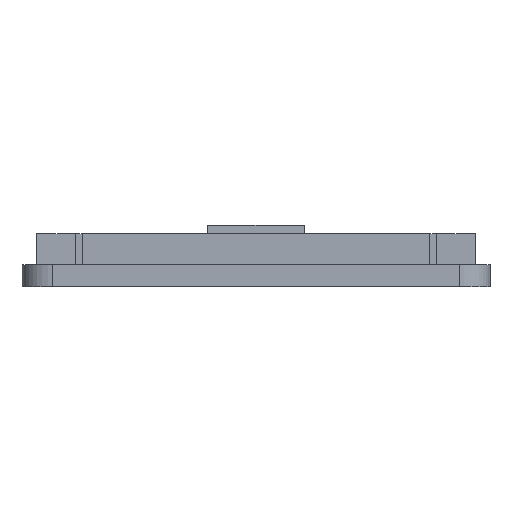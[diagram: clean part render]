
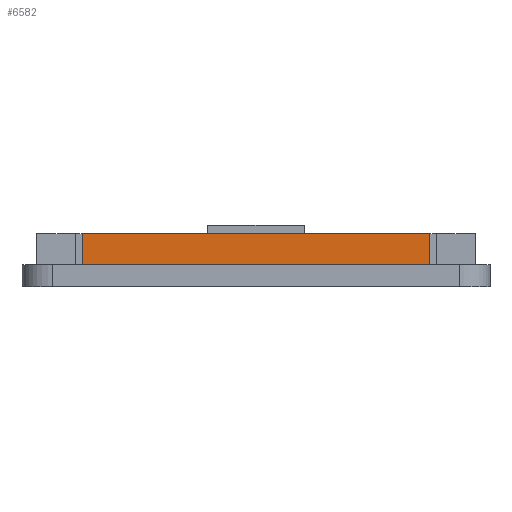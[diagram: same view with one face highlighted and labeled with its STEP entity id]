
A CAD part, front view. The second image highlights one B-rep face of the part: STEP entity #6582.
In plain terms, the highlighted planar face has unit normal (0, -1, 0).
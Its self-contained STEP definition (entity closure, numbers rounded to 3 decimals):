
#602 = PLANE('',#603);
#603 = AXIS2_PLACEMENT_3D('',#604,#605,#606);
#604 = CARTESIAN_POINT('',(-136.,-146.,14.));
#605 = DIRECTION('',(0.,0.,1.));
#606 = DIRECTION('',(1.,0.,0.));
#804 = VERTEX_POINT('',#805);
#805 = CARTESIAN_POINT('',(-101.,-116.,14.));
#819 = PLANE('',#820);
#820 = AXIS2_PLACEMENT_3D('',#821,#822,#823);
#821 = CARTESIAN_POINT('',(-101.,-131.5,14.));
#822 = DIRECTION('',(1.,0.,0.));
#823 = DIRECTION('',(0.,0.,1.));
#1532 = VERTEX_POINT('',#1533);
#1533 = CARTESIAN_POINT('',(101.,-116.,14.));
#1547 = PLANE('',#1548);
#1548 = AXIS2_PLACEMENT_3D('',#1549,#1550,#1551);
#1549 = CARTESIAN_POINT('',(101.,-131.5,14.));
#1550 = DIRECTION('',(1.,0.,0.));
#1551 = DIRECTION('',(0.,0.,1.));
#1559 = EDGE_CURVE('',#804,#1532,#1560,.T.);
#1560 = SURFACE_CURVE('',#1561,(#1565,#1572),.PCURVE_S1.);
#1561 = LINE('',#1562,#1563);
#1562 = CARTESIAN_POINT('',(-127.5,-116.,14.));
#1563 = VECTOR('',#1564,1.);
#1564 = DIRECTION('',(1.,0.,0.));
#1565 = PCURVE('',#602,#1566);
#1566 = DEFINITIONAL_REPRESENTATION('',(#1567),#1571);
#1567 = LINE('',#1568,#1569);
#1568 = CARTESIAN_POINT('',(8.5,30.));
#1569 = VECTOR('',#1570,1.);
#1570 = DIRECTION('',(1.,0.));
#1571 = ( GEOMETRIC_REPRESENTATION_CONTEXT(2) 
PARAMETRIC_REPRESENTATION_CONTEXT() REPRESENTATION_CONTEXT('2D SPACE',''
  ) );
#1572 = PCURVE('',#1573,#1578);
#1573 = PLANE('',#1574);
#1574 = AXIS2_PLACEMENT_3D('',#1575,#1576,#1577);
#1575 = CARTESIAN_POINT('',(-127.5,-116.,14.));
#1576 = DIRECTION('',(0.,1.,0.));
#1577 = DIRECTION('',(0.,0.,1.));
#1578 = DEFINITIONAL_REPRESENTATION('',(#1579),#1583);
#1579 = LINE('',#1580,#1581);
#1580 = CARTESIAN_POINT('',(0.,0.));
#1581 = VECTOR('',#1582,1.);
#1582 = DIRECTION('',(0.,1.));
#1583 = ( GEOMETRIC_REPRESENTATION_CONTEXT(2) 
PARAMETRIC_REPRESENTATION_CONTEXT() REPRESENTATION_CONTEXT('2D SPACE',''
  ) );
#1628 = PLANE('',#1629);
#1629 = AXIS2_PLACEMENT_3D('',#1630,#1631,#1632);
#1630 = CARTESIAN_POINT('',(-105.,-131.5,39.));
#1631 = DIRECTION('',(0.,0.,1.));
#1632 = DIRECTION('',(1.,0.,0.));
#1689 = VERTEX_POINT('',#1690);
#1690 = CARTESIAN_POINT('',(-101.,-116.,39.));
#1711 = EDGE_CURVE('',#1689,#1712,#1714,.T.);
#1712 = VERTEX_POINT('',#1713);
#1713 = CARTESIAN_POINT('',(101.,-116.,39.));
#1714 = SURFACE_CURVE('',#1715,(#1719,#1726),.PCURVE_S1.);
#1715 = LINE('',#1716,#1717);
#1716 = CARTESIAN_POINT('',(-127.5,-116.,39.));
#1717 = VECTOR('',#1718,1.);
#1718 = DIRECTION('',(1.,0.,0.));
#1719 = PCURVE('',#1628,#1720);
#1720 = DEFINITIONAL_REPRESENTATION('',(#1721),#1725);
#1721 = LINE('',#1722,#1723);
#1722 = CARTESIAN_POINT('',(-22.5,15.5));
#1723 = VECTOR('',#1724,1.);
#1724 = DIRECTION('',(1.,0.));
#1725 = ( GEOMETRIC_REPRESENTATION_CONTEXT(2) 
PARAMETRIC_REPRESENTATION_CONTEXT() REPRESENTATION_CONTEXT('2D SPACE',''
  ) );
#1726 = PCURVE('',#1573,#1727);
#1727 = DEFINITIONAL_REPRESENTATION('',(#1728),#1732);
#1728 = LINE('',#1729,#1730);
#1729 = CARTESIAN_POINT('',(25.,0.));
#1730 = VECTOR('',#1731,1.);
#1731 = DIRECTION('',(0.,1.));
#1732 = ( GEOMETRIC_REPRESENTATION_CONTEXT(2) 
PARAMETRIC_REPRESENTATION_CONTEXT() REPRESENTATION_CONTEXT('2D SPACE',''
  ) );
#6564 = EDGE_CURVE('',#1532,#1712,#6565,.T.);
#6565 = SURFACE_CURVE('',#6566,(#6570,#6576),.PCURVE_S1.);
#6566 = LINE('',#6567,#6568);
#6567 = CARTESIAN_POINT('',(101.,-116.,14.));
#6568 = VECTOR('',#6569,1.);
#6569 = DIRECTION('',(0.,0.,1.));
#6570 = PCURVE('',#1547,#6571);
#6571 = DEFINITIONAL_REPRESENTATION('',(#6572),#6575);
#6572 = B_SPLINE_CURVE_WITH_KNOTS('',1,(#6573,#6574),.UNSPECIFIED.,.F.,
  .F.,(2,2),(0.,25.),.PIECEWISE_BEZIER_KNOTS.);
#6573 = CARTESIAN_POINT('',(0.,-15.5));
#6574 = CARTESIAN_POINT('',(25.,-15.5));
#6575 = ( GEOMETRIC_REPRESENTATION_CONTEXT(2) 
PARAMETRIC_REPRESENTATION_CONTEXT() REPRESENTATION_CONTEXT('2D SPACE',''
  ) );
#6576 = PCURVE('',#1573,#6577);
#6577 = DEFINITIONAL_REPRESENTATION('',(#6578),#6581);
#6578 = B_SPLINE_CURVE_WITH_KNOTS('',1,(#6579,#6580),.UNSPECIFIED.,.F.,
  .F.,(2,2),(0.,25.),.PIECEWISE_BEZIER_KNOTS.);
#6579 = CARTESIAN_POINT('',(0.,228.5));
#6580 = CARTESIAN_POINT('',(25.,228.5));
#6581 = ( GEOMETRIC_REPRESENTATION_CONTEXT(2) 
PARAMETRIC_REPRESENTATION_CONTEXT() REPRESENTATION_CONTEXT('2D SPACE',''
  ) );
#6582 = ADVANCED_FACE('',(#6583),#1573,.F.);
#6583 = FACE_BOUND('',#6584,.F.);
#6584 = EDGE_LOOP('',(#6585,#6586,#6605,#6606));
#6585 = ORIENTED_EDGE('',*,*,#1559,.F.);
#6586 = ORIENTED_EDGE('',*,*,#6587,.T.);
#6587 = EDGE_CURVE('',#804,#1689,#6588,.T.);
#6588 = SURFACE_CURVE('',#6589,(#6593,#6599),.PCURVE_S1.);
#6589 = LINE('',#6590,#6591);
#6590 = CARTESIAN_POINT('',(-101.,-116.,14.));
#6591 = VECTOR('',#6592,1.);
#6592 = DIRECTION('',(0.,0.,1.));
#6593 = PCURVE('',#1573,#6594);
#6594 = DEFINITIONAL_REPRESENTATION('',(#6595),#6598);
#6595 = B_SPLINE_CURVE_WITH_KNOTS('',1,(#6596,#6597),.UNSPECIFIED.,.F.,
  .F.,(2,2),(0.,25.),.PIECEWISE_BEZIER_KNOTS.);
#6596 = CARTESIAN_POINT('',(0.,26.5));
#6597 = CARTESIAN_POINT('',(25.,26.5));
#6598 = ( GEOMETRIC_REPRESENTATION_CONTEXT(2) 
PARAMETRIC_REPRESENTATION_CONTEXT() REPRESENTATION_CONTEXT('2D SPACE',''
  ) );
#6599 = PCURVE('',#819,#6600);
#6600 = DEFINITIONAL_REPRESENTATION('',(#6601),#6604);
#6601 = B_SPLINE_CURVE_WITH_KNOTS('',1,(#6602,#6603),.UNSPECIFIED.,.F.,
  .F.,(2,2),(0.,25.),.PIECEWISE_BEZIER_KNOTS.);
#6602 = CARTESIAN_POINT('',(0.,-15.5));
#6603 = CARTESIAN_POINT('',(25.,-15.5));
#6604 = ( GEOMETRIC_REPRESENTATION_CONTEXT(2) 
PARAMETRIC_REPRESENTATION_CONTEXT() REPRESENTATION_CONTEXT('2D SPACE',''
  ) );
#6605 = ORIENTED_EDGE('',*,*,#1711,.T.);
#6606 = ORIENTED_EDGE('',*,*,#6564,.F.);
